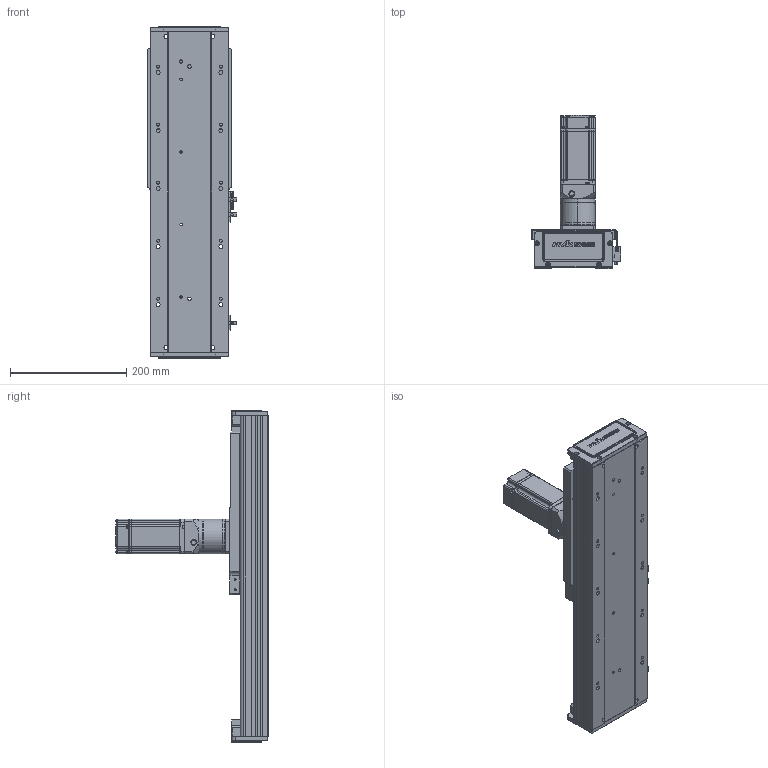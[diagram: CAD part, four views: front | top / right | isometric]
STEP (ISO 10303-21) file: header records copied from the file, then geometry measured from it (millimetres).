
FILE_DESCRIPTION (( 'STEP AP203' ), '1' );
FILE_NAME ('RY140-C-250-UK.SLDASM_200.step', '2022-03-12T01:58:05', ( '' ), ( '' ), 'SwSTEP 2.0', 'SolidWorks 2016', '' );
FILE_SCHEMA (( 'CONFIG_CONTROL_DESIGN' ));
Length unit declared in the file: millimetre
Products named in the file (12): 覜茼ん672; RY140-喘沭賑輸; 60ZDF珨撰俋倛芞T1 200W M4; RY140-喘謫萇儂覃誹啣; RY140-絳寢EGH15-300-MK_200; 15; RY140-300齿条模组型材底座_200; RY140-C-250-UK.SLDASM_200; 絳寢賑輸EGH15; 140蚥薯蝶輸; RY120外置感应片(140共用）; RY140-喘沭裔啣
Assembly tree (21 placements, depth 2):
  RY140-C-250-UK.SLDASM_200
    RY140-300齿条模组型材底座_200
    RY140-絳寢EGH15-300-MK_200  x2
    絳寢賑輸EGH15  x6
    RY140-喘沭裔啣  x2
    覜茼ん672  x3
    RY140-喘沭賑輸
    RY120外置感应片(140共用）
    RY140-喘謫萇儂覃誹啣
    140蚥薯蝶輸  x2
    60ZDF珨撰俋倛芞T1 200W M4
    15
Bounding box: 153.7 x 263.5 x 572 mm (x, y, z)
Volume: 3106958.4 mm3; surface area: 735265.4 mm2
Topology: 21 solids, 21 shells, 2978 faces, 7784 edges, 5056 vertices
Faces by surface type: plane 1604, cylinder 1144, cone 184, bspline 46
Entity records: 62683 total; most frequent: CARTESIAN_POINT 12914, DIRECTION 10143, ORIENTED_EDGE 9942, EDGE_CURVE 4971, AXIS2_PLACEMENT_3D 3526, VERTEX_POINT 3249, LINE 3091, VECTOR 3091
